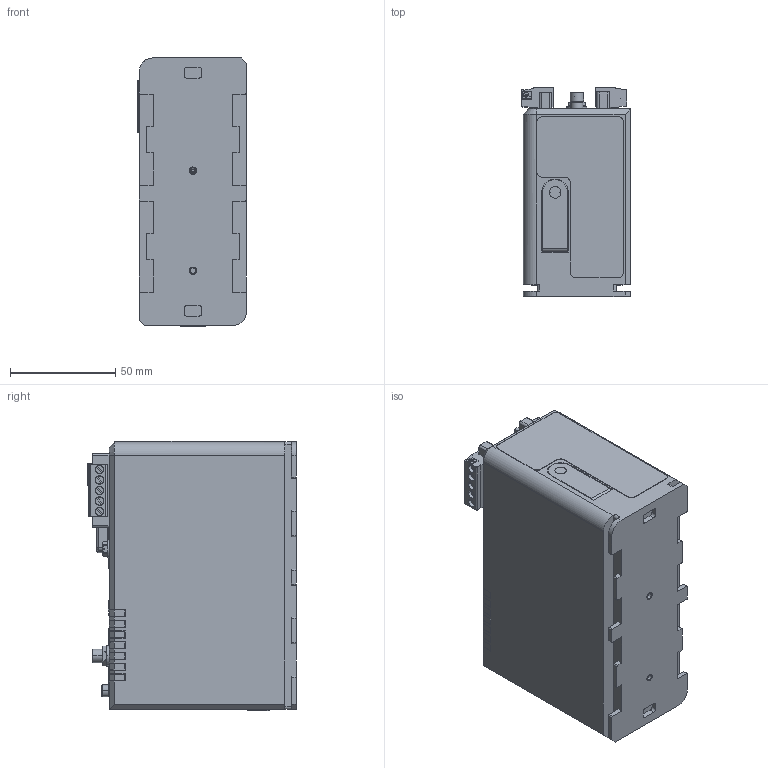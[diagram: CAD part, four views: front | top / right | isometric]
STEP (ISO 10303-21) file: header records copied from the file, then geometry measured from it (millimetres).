
FILE_DESCRIPTION((''),'2;1');
FILE_NAME('50001900-XX-PRT','2017-11-28T',('tmiller'),(''),'CREO PARAMETRIC BY PTC INC, 2016050','CREO PARAMETRIC BY PTC INC, 2016050','');
FILE_SCHEMA(('CONFIG_CONTROL_DESIGN'));
Products named in the file (1): 50001900-XX-PRT
Bounding box: 51.64 x 99.13 x 127.76 mm (x, y, z)
Volume: 145200.4 mm3; surface area: 111329.5 mm2
Topology: 22 solids, 254 shells, 3851 faces, 11327 edges, 7894 vertices
Faces by surface type: plane 2662, cylinder 911, cone 113, torus 79, bspline 76, extrusion 6, sphere 4
Entity records: 142946 total; most frequent: CARTESIAN_POINT 43755, ORIENTED_EDGE 20740, DIRECTION 18472, EDGE_CURVE 11327, VERTEX_POINT 7894, VECTOR 7768, LINE 7762, AXIS2_PLACEMENT_3D 5352
